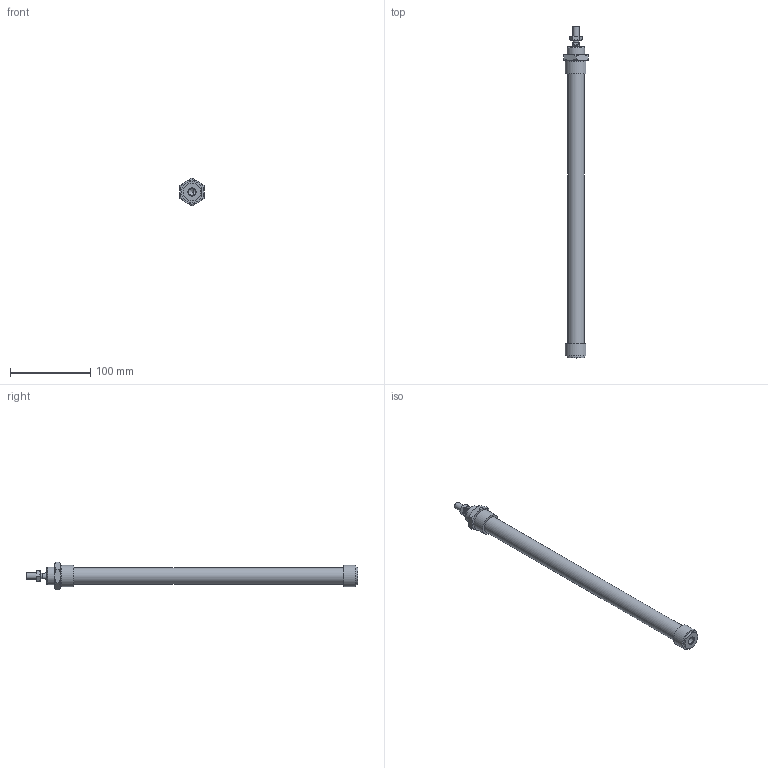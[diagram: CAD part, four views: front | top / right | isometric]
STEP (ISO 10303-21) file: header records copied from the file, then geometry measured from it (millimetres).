
FILE_DESCRIPTION((''),'2;1');
FILE_NAME('I:\Area Tecnica\Disegni\VARIE-3D\Componenti\1280\1281_##_####_#\1281_20_0300.iam.stp','2009-06-04T09:39:28',(''),(''),'Autodesk Inventor 2010','Autodesk Inventor 2010','');
FILE_SCHEMA(('AUTOMOTIVE_DESIGN { 1 0 10303 214 1 1 1 1 }'));
Length unit declared in the file: millimetre
Products named in the file (5): 1281_20_0300; C1281_20_300; S1280_20_300; 1200_20_05; 1200_20_06
Assembly tree (4 placements, depth 2):
  1281_20_0300
    C1281_20_300
    S1280_20_300
    1200_20_05
    1200_20_06
Bounding box: 30 x 414.5 x 34.64 mm (x, y, z)
Volume: 147218.1 mm3; surface area: 48537.4 mm2
Topology: 4 solids, 4 shells, 86 faces, 185 edges, 112 vertices
Faces by surface type: plane 36, cone 26, bspline 15, cylinder 9
Full cylindrical faces by diameter (mm): 6.5 x1, 8 x3, 21.2 x1, 22 x2
Entity records: 2537 total; most frequent: CARTESIAN_POINT 698, DIRECTION 332, ORIENTED_EDGE 310, EDGE_CURVE 155, AXIS2_PLACEMENT_3D 148, EDGE_LOOP 120, VERTEX_POINT 103, STYLED_ITEM 90
